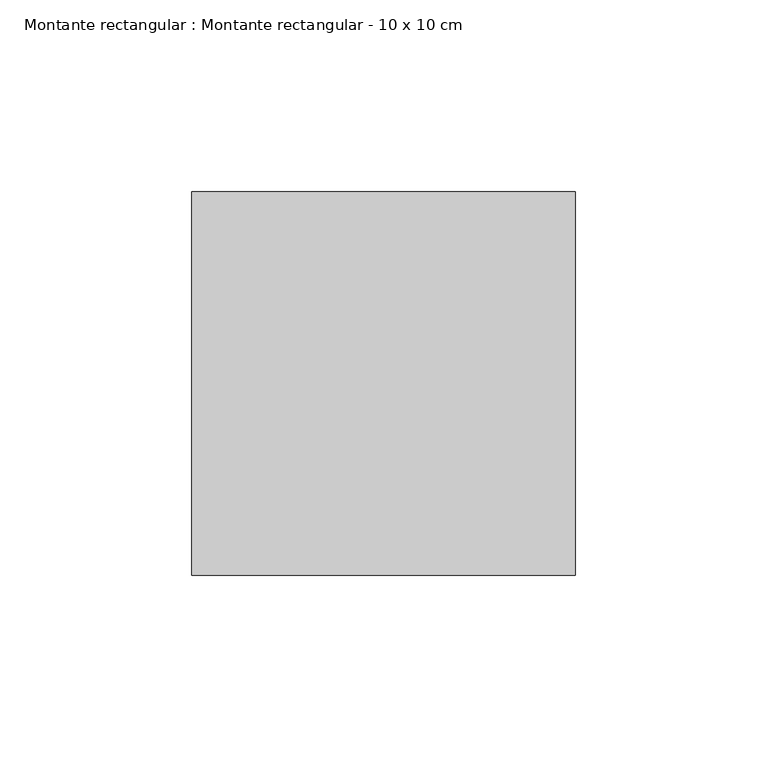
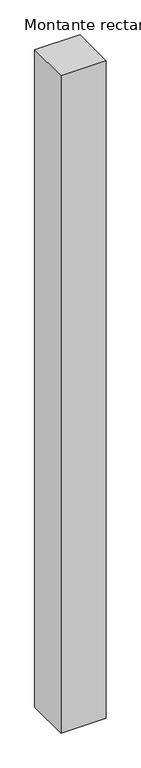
"""IFC4 building model written with IfcOpenShell, lengths in millimetres: member geometry, Montante rectangular : Montante rectangular - 10 x 10 cm."""

from ifc_helpers import new_model, si_unit, frame, origin, place, context, project, spatial, polyline, outline, extrude, source, transform, mapped, element, save


def montante_rectangular_montante_rectangular_10_x_10_cm_00349207(model_context):
    return source(origin(), model_context, "Body", "SweptSolid", [
        extrude(outline(polyline([(-100.0, -50.0), (-100.0, 50.0), (0.0, 50.0), (0.0, -50.0), (-100.0, -50.0)])), frame((0.0, 0.0, -1530.9540566), z_axis=(0.0, 0.0, 1.0), x_axis=(1.0, 0.0, 0.0)), (0.0, 0.0, 1.0), 1530.9540566),
    ])


if __name__ == "__main__":
    model = new_model("IFC4")
    model_context = context("Model", 3, world=origin())
    ifc_project = project(units=[si_unit("LENGTHUNIT", "METRE", prefix="MILLI")], contexts=[model_context])
    site = spatial("IfcSite", under=ifc_project)
    building = spatial("IfcBuilding", under=site)
    placement = place(None, origin())
    montante_rectangular_montante_rectangular_10_x_10_cm_shape = montante_rectangular_montante_rectangular_10_x_10_cm_00349207(model_context)
    element("IfcMember", 1, ObjectType="Montante rectangular : Montante rectangular - 10 x 10 cm", at=placement, inside=building, context=model_context, shape_type="MappedRepresentation", body=[
        mapped(montante_rectangular_montante_rectangular_10_x_10_cm_shape, transform((0.0, 0.0, 0.0), x_axis=(1.0, 0.0, 0.0), y_axis=(0.0, 1.0, 0.0), z_axis=(0.0, 0.0, 1.0))),
    ])
    save(model, "model.ifc")
